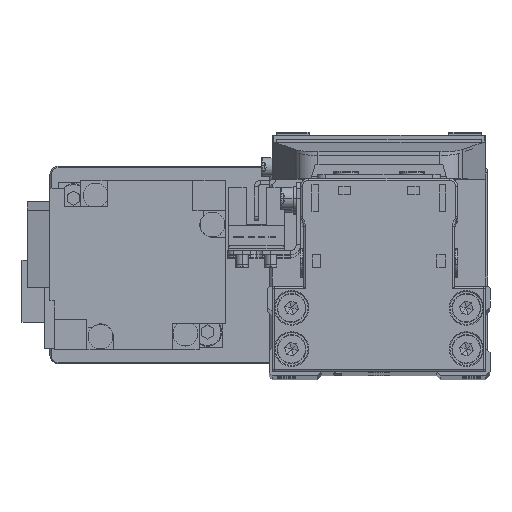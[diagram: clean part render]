
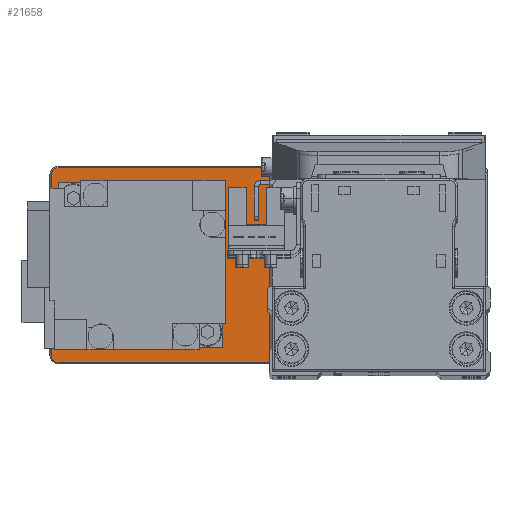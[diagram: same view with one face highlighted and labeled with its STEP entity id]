
A CAD part, top view. The second image highlights one B-rep face of the part: STEP entity #21658.
In plain terms, the highlighted planar face has unit normal (0, 0, 1).
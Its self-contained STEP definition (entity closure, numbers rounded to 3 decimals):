
#75 = PLANE ( 'NONE',  #26087 ) ;
#212 = LINE ( 'NONE', #12555, #6097 ) ;
#1009 = EDGE_CURVE ( 'NONE', #19336, #26333, #31350, .T. ) ;
#1696 = DIRECTION ( 'NONE',  ( 0., 0., 1. ) ) ;
#2095 = EDGE_CURVE ( 'NONE', #18685, #36560, #26938, .T. ) ;
#2284 = CARTESIAN_POINT ( 'NONE',  ( 50., -23.7, 5. ) ) ;
#2375 = CARTESIAN_POINT ( 'NONE',  ( -28., 0., 5. ) ) ;
#3080 = EDGE_CURVE ( 'NONE', #32123, #16272, #16543, .T. ) ;
#3201 = AXIS2_PLACEMENT_3D ( 'NONE', #2375, #14713, #27091 ) ;
#3309 = ORIENTED_EDGE ( 'NONE', *, *, #21149, .T. ) ;
#3585 = CARTESIAN_POINT ( 'NONE',  ( 51.7, 22., 5. ) ) ;
#3659 = EDGE_LOOP ( 'NONE', ( #14604, #38981 ) ) ;
#3754 = VERTEX_POINT ( 'NONE', #27261 ) ;
#4330 = AXIS2_PLACEMENT_3D ( 'NONE', #23822, #36169, #8416 ) ;
#4929 = CARTESIAN_POINT ( 'NONE',  ( 30., 0., 5. ) ) ;
#4971 = AXIS2_PLACEMENT_3D ( 'NONE', #37303, #9540, #21897 ) ;
#6097 = VECTOR ( 'NONE', #24922, 1000. ) ;
#6473 = AXIS2_PLACEMENT_3D ( 'NONE', #9638, #18974, #31335 ) ;
#6813 = VECTOR ( 'NONE', #15924, 1000. ) ;
#7117 = DIRECTION ( 'NONE',  ( 1., 0., 0. ) ) ;
#7271 = CARTESIAN_POINT ( 'NONE',  ( -38.3, 0., 5. ) ) ;
#8222 = CARTESIAN_POINT ( 'NONE',  ( -50., 23.7, 5. ) ) ;
#8416 = DIRECTION ( 'NONE',  ( 1., 0., 0. ) ) ;
#9454 = AXIS2_PLACEMENT_3D ( 'NONE', #39116, #11364, #23714 ) ;
#9540 = DIRECTION ( 'NONE',  ( 0., 0., -1. ) ) ;
#9561 = CARTESIAN_POINT ( 'NONE',  ( -50., 23.7, 5. ) ) ;
#9638 = CARTESIAN_POINT ( 'NONE',  ( 50., 22., 5. ) ) ;
#10727 = VERTEX_POINT ( 'NONE', #2284 ) ;
#11364 = DIRECTION ( 'NONE',  ( 0., 0., 1. ) ) ;
#11485 = ORIENTED_EDGE ( 'NONE', *, *, #11997, .T. ) ;
#11665 = LINE ( 'NONE', #24040, #26064 ) ;
#11997 = EDGE_CURVE ( 'NONE', #23275, #3754, #29745, .T. ) ;
#12222 = EDGE_CURVE ( 'NONE', #13406, #21122, #37322, .T. ) ;
#12431 = CARTESIAN_POINT ( 'NONE',  ( 0., 0., 5. ) ) ;
#12555 = CARTESIAN_POINT ( 'NONE',  ( 50., -23.7, 5. ) ) ;
#13406 = VERTEX_POINT ( 'NONE', #27064 ) ;
#13794 = EDGE_CURVE ( 'NONE', #10727, #19336, #38348, .T. ) ;
#14032 = DIRECTION ( 'NONE',  ( 1., 0., 0. ) ) ;
#14604 = ORIENTED_EDGE ( 'NONE', *, *, #3080, .T. ) ;
#14713 = DIRECTION ( 'NONE',  ( 0., 0., -1. ) ) ;
#15438 = FACE_BOUND ( 'NONE', #3659, .T. ) ;
#15924 = DIRECTION ( 'NONE',  ( 0., 1., 0. ) ) ;
#16187 = CARTESIAN_POINT ( 'NONE',  ( 51.7, -22., 5. ) ) ;
#16272 = VERTEX_POINT ( 'NONE', #7271 ) ;
#16543 = CIRCLE ( 'NONE', #39181, 10.3 ) ;
#16829 = CARTESIAN_POINT ( 'NONE',  ( -51.7, 22., 5. ) ) ;
#17272 = DIRECTION ( 'NONE',  ( 0., 0., -1. ) ) ;
#17447 = AXIS2_PLACEMENT_3D ( 'NONE', #4929, #17272, #29639 ) ;
#17656 = ORIENTED_EDGE ( 'NONE', *, *, #2095, .T. ) ;
#17822 = EDGE_CURVE ( 'NONE', #16272, #32123, #20667, .T. ) ;
#18189 = VECTOR ( 'NONE', #21919, 1000. ) ;
#18538 = CARTESIAN_POINT ( 'NONE',  ( 51.7, 22., 5. ) ) ;
#18654 = EDGE_LOOP ( 'NONE', ( #31290, #24980, #30882, #35539, #26021, #21755, #3309, #17656 ) ) ;
#18685 = VERTEX_POINT ( 'NONE', #39349 ) ;
#18974 = DIRECTION ( 'NONE',  ( 0., 0., 1. ) ) ;
#19336 = VERTEX_POINT ( 'NONE', #16187 ) ;
#20618 = EDGE_LOOP ( 'NONE', ( #25188, #11485 ) ) ;
#20667 = CIRCLE ( 'NONE', #3201, 10.3 ) ;
#20887 = AXIS2_PLACEMENT_3D ( 'NONE', #29458, #1696, #14032 ) ;
#21122 = VERTEX_POINT ( 'NONE', #8222 ) ;
#21149 = EDGE_CURVE ( 'NONE', #38082, #18685, #11665, .T. ) ;
#21658 = ADVANCED_FACE ( 'NONE', ( #33913, #15438, #27817 ), #75, .T. ) ;
#21755 = ORIENTED_EDGE ( 'NONE', *, *, #30639, .T. ) ;
#21802 = CIRCLE ( 'NONE', #4330, 1.7 ) ;
#21897 = DIRECTION ( 'NONE',  ( 1., 0., 0. ) ) ;
#21919 = DIRECTION ( 'NONE',  ( -1., 0., 0. ) ) ;
#22444 = CIRCLE ( 'NONE', #4971, 12.8 ) ;
#22513 = CARTESIAN_POINT ( 'NONE',  ( -28., 0., 5. ) ) ;
#22728 = EDGE_CURVE ( 'NONE', #36560, #10727, #212, .T. ) ;
#23275 = VERTEX_POINT ( 'NONE', #37828 ) ;
#23714 = DIRECTION ( 'NONE',  ( 1., 0., 0. ) ) ;
#23822 = CARTESIAN_POINT ( 'NONE',  ( -50., 22., 5. ) ) ;
#23941 = CIRCLE ( 'NONE', #6473, 1.7 ) ;
#24040 = CARTESIAN_POINT ( 'NONE',  ( -51.7, -22., 5. ) ) ;
#24799 = DIRECTION ( 'NONE',  ( 0., 0., 1. ) ) ;
#24896 = CARTESIAN_POINT ( 'NONE',  ( -17.7, 0., 5. ) ) ;
#24922 = DIRECTION ( 'NONE',  ( 1., 0., 0. ) ) ;
#24980 = ORIENTED_EDGE ( 'NONE', *, *, #13794, .T. ) ;
#25188 = ORIENTED_EDGE ( 'NONE', *, *, #30434, .T. ) ;
#26021 = ORIENTED_EDGE ( 'NONE', *, *, #12222, .T. ) ;
#26064 = VECTOR ( 'NONE', #36394, 1000. ) ;
#26087 = AXIS2_PLACEMENT_3D ( 'NONE', #12431, #24799, #37143 ) ;
#26333 = VERTEX_POINT ( 'NONE', #18538 ) ;
#26938 = CIRCLE ( 'NONE', #9454, 1.7 ) ;
#27064 = CARTESIAN_POINT ( 'NONE',  ( 50., 23.7, 5. ) ) ;
#27091 = DIRECTION ( 'NONE',  ( 1., 0., 0. ) ) ;
#27261 = CARTESIAN_POINT ( 'NONE',  ( 42.8, 0., 5. ) ) ;
#27817 = FACE_OUTER_BOUND ( 'NONE', #18654, .T. ) ;
#29458 = CARTESIAN_POINT ( 'NONE',  ( 50., -22., 5. ) ) ;
#29639 = DIRECTION ( 'NONE',  ( 1., 0., 0. ) ) ;
#29745 = CIRCLE ( 'NONE', #17447, 12.8 ) ;
#30423 = CARTESIAN_POINT ( 'NONE',  ( -50., -23.7, 5. ) ) ;
#30434 = EDGE_CURVE ( 'NONE', #3754, #23275, #22444, .T. ) ;
#30639 = EDGE_CURVE ( 'NONE', #21122, #38082, #21802, .T. ) ;
#30882 = ORIENTED_EDGE ( 'NONE', *, *, #1009, .T. ) ;
#31290 = ORIENTED_EDGE ( 'NONE', *, *, #22728, .T. ) ;
#31335 = DIRECTION ( 'NONE',  ( 1., 0., 0. ) ) ;
#31350 = LINE ( 'NONE', #3585, #6813 ) ;
#32123 = VERTEX_POINT ( 'NONE', #24896 ) ;
#33808 = EDGE_CURVE ( 'NONE', #26333, #13406, #23941, .T. ) ;
#33913 = FACE_BOUND ( 'NONE', #20618, .T. ) ;
#34871 = DIRECTION ( 'NONE',  ( 0., 0., -1. ) ) ;
#35539 = ORIENTED_EDGE ( 'NONE', *, *, #33808, .T. ) ;
#36169 = DIRECTION ( 'NONE',  ( 0., 0., 1. ) ) ;
#36394 = DIRECTION ( 'NONE',  ( 0., -1., 0. ) ) ;
#36560 = VERTEX_POINT ( 'NONE', #30423 ) ;
#37143 = DIRECTION ( 'NONE',  ( 1., 0., 0. ) ) ;
#37303 = CARTESIAN_POINT ( 'NONE',  ( 30., 0., 5. ) ) ;
#37322 = LINE ( 'NONE', #9561, #18189 ) ;
#37828 = CARTESIAN_POINT ( 'NONE',  ( 17.2, 0., 5. ) ) ;
#38082 = VERTEX_POINT ( 'NONE', #16829 ) ;
#38348 = CIRCLE ( 'NONE', #20887, 1.7 ) ;
#38981 = ORIENTED_EDGE ( 'NONE', *, *, #17822, .T. ) ;
#39116 = CARTESIAN_POINT ( 'NONE',  ( -50., -22., 5. ) ) ;
#39181 = AXIS2_PLACEMENT_3D ( 'NONE', #22513, #34871, #7117 ) ;
#39349 = CARTESIAN_POINT ( 'NONE',  ( -51.7, -22., 5. ) ) ;
